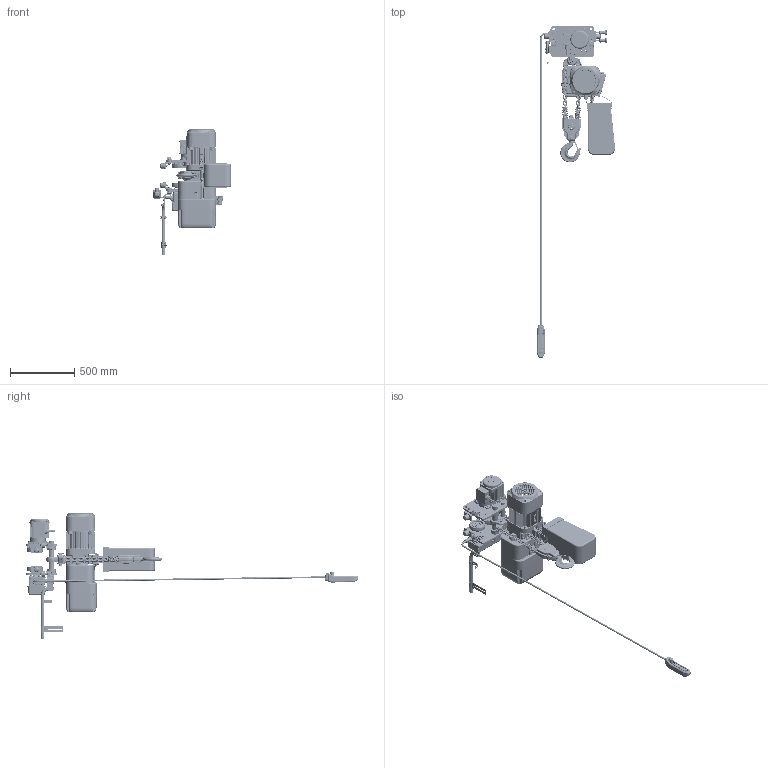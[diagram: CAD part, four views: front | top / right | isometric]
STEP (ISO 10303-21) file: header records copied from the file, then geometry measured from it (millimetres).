
FILE_DESCRIPTION (( 'STEP AP214' ), '1' );
FILE_NAME ('NER2M030CD-L.STEP', '2026-08-07T13:41:24', ( '' ), ( '' ), 'SwSTEP 2.0', 'SolidWorks 2026', '' );
FILE_SCHEMA (( 'AUTOMOTIVE_DESIGN' ));
Length unit declared in the file: inch
Products named in the file (149): MR1FS9631; basic internal retaining ring_am_B27.7M - 3BM1-60; MR1ES12112_Reversed; ER2BHM20I9A5; J1BA1-1004026_B18.2.3.1M - Hex cap screw, M10 x 1.5 x 40 --40C; Pendant - 6 Button; MR1DS9324; MR1ES12112; MR1FS5201; MR1DS1481; MR2DS2811; BK2E1_for (N)ER2020L; MS164030; socket head cap screw_am_9091274; ER2EI9104_ER2EI9104; ECP5924AH; ER2ES9337; ER2EI2523; 9009433_9009433; MR1ES9634; ER1ES9054; ER2EI2104; MR1DS93112; single coil rectangular section spring washer_bsi_9012711; ER2ES9338; socket head cap screw_am_9091295; MS1101030; MR1FS9101_MR1FS9101; MR1DS9496; ER2CS9511; MR1DS9501; 16-6P (MR2); MR2DS92171; 9012513; hex cap screw_am_9093329; ECP5924AA1; NER2M030CD-L; 90912116_90912116; spring lock washer_2_jis_9012712; MR1FS9205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
Assembly tree (330 placements, depth 6):
  NER2M030CD-L
    ER2ES9105
    ER2ES9101
    ER2ES9103
    ER2EI2104
      ER2EI9104_ER2EI9104
      ER2EI9185_ER2EI9185
      J1AP2-4001212.SLDASM  x4
    ER2ES9107_ER2ES9107
    ER2ER9031
    ER2ER1011
      ER2ER9011
      ER2ER1002
      ER2ER2015
        ER2ER9015  x2
        J1BA1-1004026_B18.2.3.1M - Hex cap screw, M10 x 1.5 x 40 --40C  x3
        J1WS011-20100_Rectangular section spring washer BS 4464 - 16 (Type B)  x3
        J1NA001-20100_B18.2.4.1M - Hex nut, Style 1,  M10 x 1.5, with 16mm WAF --D-C  x3
    ER2ES9337
    ER2ES9338
    ER2CS9357
    ER2ES9121  x2
    ER2ES9331
    ER1ES9054
    ER1ES1041
    ES047015  x2
    ER2ES9186
    ER2ES9123
    ER2CS9511
    ER2EI2523
    ER2EI2564
    ER2ER9030
    GMR pattern attempt
    MR030L_7" FLANGE
      MR1FS5201
        MR1FS9201
        MR1FS9203  x2
        MR1FS9204
      MR1FS5202
        MR1FS9202
        MR1FS9203  x2
        MR1FS9205
      MS1101030  x2
        M6SE030S9101
        basic internal retaining ring_am_B27.7M - 3BM1-60
        J1GR020-0630
      MS1102030  x2
        M6SE030S9102
        basic internal retaining ring_am_B27.7M - 3BM1-60
        J1GR020-0630
      MR1ES9634  x4
      MS006020  x4
      MR1ES12112  x2
        M7SE020S91422
        J1PS31-050025
        MR1ES22111
        MR2DS92171
        MR1ES92151
        MR1ES9218
      MR1ES12112_Reversed  x2
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Bounding box: 606.86 x 2581.74 x 972.34 mm (x, y, z)
Volume: 46982673.5 mm3; surface area: 5643085.4 mm2
Topology: 424 solids, 441 shells, 17329 faces, 44853 edges, 28400 vertices
Faces by surface type: plane 7291, cylinder 5417, bspline 1546, cone 1507, torus 1181, sphere 387
Entity records: 465258 total; most frequent: CARTESIAN_POINT 172246, ORIENTED_EDGE 59258, DIRECTION 57166, EDGE_CURVE 29631, AXIS2_PLACEMENT_3D 21640, VERTEX_POINT 18900, VECTOR 13886, LINE 13886
